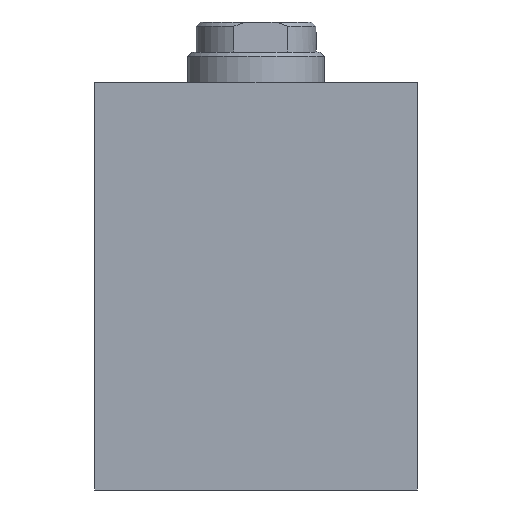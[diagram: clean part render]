
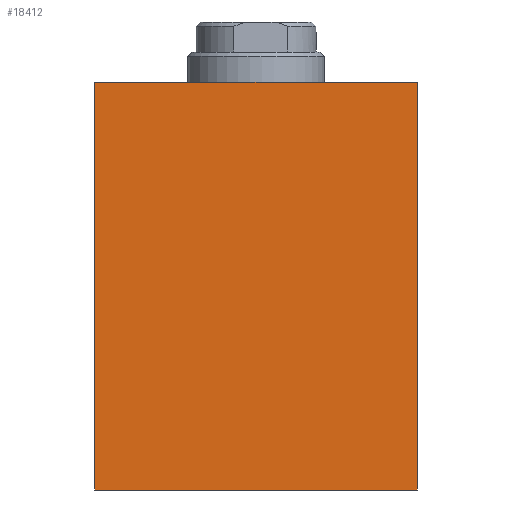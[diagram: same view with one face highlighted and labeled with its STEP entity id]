
A CAD part, front view. The second image highlights one B-rep face of the part: STEP entity #18412.
In plain terms, the highlighted planar face has unit normal (0, -1, 0).
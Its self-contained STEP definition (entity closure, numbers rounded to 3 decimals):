
#23 = CARTESIAN_POINT ( 'NONE',  ( 0., 0., 0. ) ) ;
#256 = ORIENTED_EDGE ( 'NONE', *, *, #9236, .F. ) ;
#374 = VECTOR ( 'NONE', #12689, 1000. ) ;
#924 = AXIS2_PLACEMENT_3D ( 'NONE', #19065, #5985, #10941 ) ;
#1470 = VERTEX_POINT ( 'NONE', #7779 ) ;
#1637 = LINE ( 'NONE', #7852, #374 ) ;
#2600 = EDGE_LOOP ( 'NONE', ( #20411, #2967, #256, #8189 ) ) ;
#2619 = CARTESIAN_POINT ( 'NONE',  ( 75., 0., 95. ) ) ;
#2949 = DIRECTION ( 'NONE',  ( 1., 0., 0. ) ) ;
#2967 = ORIENTED_EDGE ( 'NONE', *, *, #14708, .F. ) ;
#4250 = CARTESIAN_POINT ( 'NONE',  ( 75., 0., 95. ) ) ;
#5169 = EDGE_CURVE ( 'NONE', #1470, #7445, #1637, .T. ) ;
#5985 = DIRECTION ( 'NONE',  ( 0., 1., 0. ) ) ;
#7445 = VERTEX_POINT ( 'NONE', #23 ) ;
#7779 = CARTESIAN_POINT ( 'NONE',  ( 0., 0., 95. ) ) ;
#7817 = PLANE ( 'NONE',  #924 ) ;
#7852 = CARTESIAN_POINT ( 'NONE',  ( 0., 0., 95. ) ) ;
#7855 = LINE ( 'NONE', #2619, #13716 ) ;
#8189 = ORIENTED_EDGE ( 'NONE', *, *, #5169, .T. ) ;
#8297 = LINE ( 'NONE', #20945, #11343 ) ;
#9236 = EDGE_CURVE ( 'NONE', #1470, #10166, #8297, .T. ) ;
#10166 = VERTEX_POINT ( 'NONE', #4250 ) ;
#10941 = DIRECTION ( 'NONE',  ( 0., 0., 1. ) ) ;
#11016 = VECTOR ( 'NONE', #15997, 1000. ) ;
#11343 = VECTOR ( 'NONE', #2949, 1000. ) ;
#12153 = DIRECTION ( 'NONE',  ( 0., 0., -1. ) ) ;
#12316 = CARTESIAN_POINT ( 'NONE',  ( 75., 0., 0. ) ) ;
#12363 = VERTEX_POINT ( 'NONE', #12316 ) ;
#12689 = DIRECTION ( 'NONE',  ( 0., 0., -1. ) ) ;
#13716 = VECTOR ( 'NONE', #12153, 1000. ) ;
#14486 = CARTESIAN_POINT ( 'NONE',  ( 0., 0., 0. ) ) ;
#14708 = EDGE_CURVE ( 'NONE', #10166, #12363, #7855, .T. ) ;
#15798 = EDGE_CURVE ( 'NONE', #7445, #12363, #18002, .T. ) ;
#15997 = DIRECTION ( 'NONE',  ( 1., 0., 0. ) ) ;
#16643 = FACE_OUTER_BOUND ( 'NONE', #2600, .T. ) ;
#18002 = LINE ( 'NONE', #14486, #11016 ) ;
#18412 = ADVANCED_FACE ( 'NONE', ( #16643 ), #7817, .F. ) ;
#19065 = CARTESIAN_POINT ( 'NONE',  ( 0., 0., 95. ) ) ;
#20411 = ORIENTED_EDGE ( 'NONE', *, *, #15798, .T. ) ;
#20945 = CARTESIAN_POINT ( 'NONE',  ( 0., 0., 95. ) ) ;
